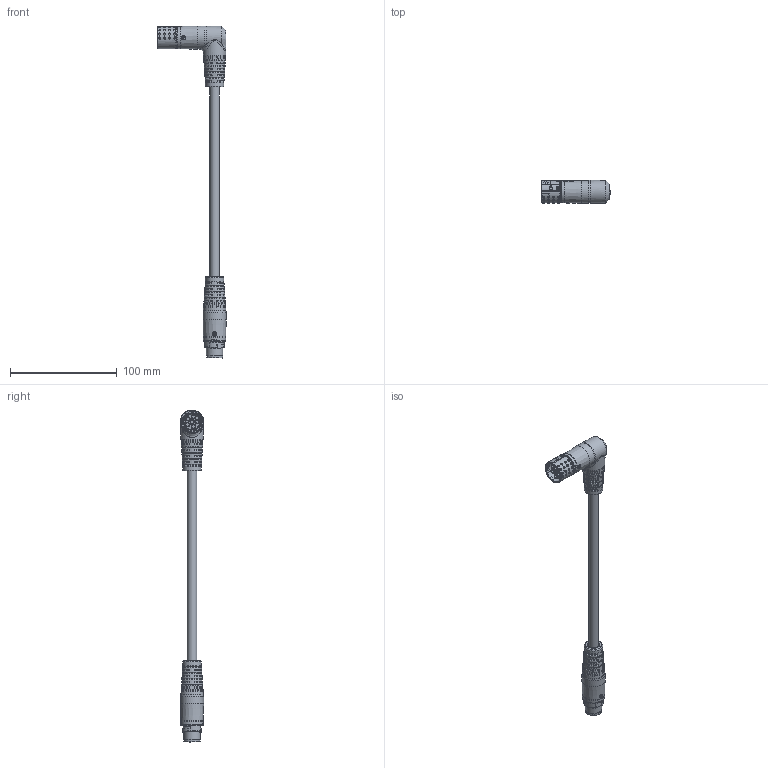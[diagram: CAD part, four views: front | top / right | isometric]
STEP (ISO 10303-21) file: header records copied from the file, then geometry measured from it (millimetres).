
FILE_DESCRIPTION (( 'STEP AP203' ), '1' );
FILE_NAME ('1146386_W-TEC_15K_GLATT-BU-90°L_STEP.STEP', '2023-09-04T08:15:00', ( '' ), ( '' ), 'SwSTEP 2.0', 'SolidWorks 2021', '' );
FILE_SCHEMA (( 'CONFIG_CONTROL_DESIGN' ));
Length unit declared in the file: millimetre
Products named in the file (1): 1146386_W-TEC_15K_GLATT-BU-90袂_STEP
Bounding box: 64.16 x 21.87 x 311.34 mm (x, y, z)
Surface area: 21437.6 mm2 (no closed solid volume)
Topology: 0 solids, 32 shells, 887 faces, 3542 edges, 2489 vertices
Faces by surface type: bspline 379, plane 229, cylinder 211, cone 50, torus 18
Full cylindrical faces by diameter (mm): 1.6 x3, 3.3 x6, 4 x2, 4.2 x3, 4.4 x3, 9.1 x1, 11.1 x2, 15.2 x1, 15.4 x1, 17.384 x1, 17.397 x1, 21.038 x1, 21.24 x1, 21.72 x2
Entity records: 60120 total; most frequent: CARTESIAN_POINT 36844, ORIENTED_EDGE 5163, EDGE_CURVE 3387, DIRECTION 3288, VERTEX_POINT 2442, B_SPLINE_CURVE_WITH_KNOTS 1653, AXIS2_PLACEMENT_3D 1193, EDGE_LOOP 1061
